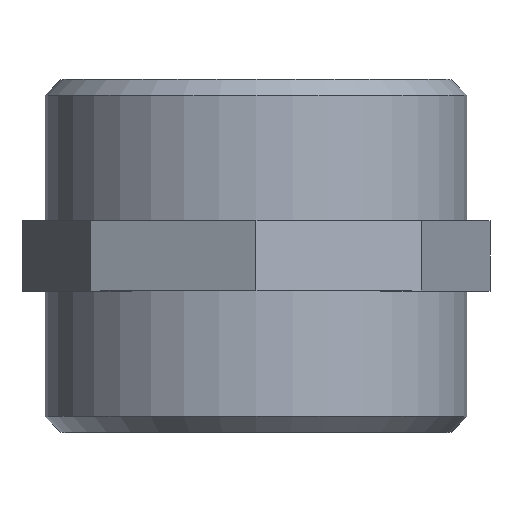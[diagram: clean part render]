
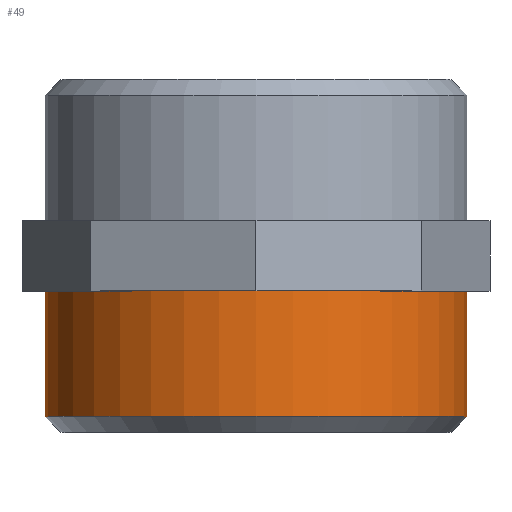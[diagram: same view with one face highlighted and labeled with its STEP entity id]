
A CAD part, top view. The second image highlights one B-rep face of the part: STEP entity #49.
In plain terms, the highlighted cylindrical face has radius 23.901 mm (diameter 47.803 mm), a full revolution.
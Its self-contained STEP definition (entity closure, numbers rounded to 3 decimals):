
#49=ADVANCED_FACE('',(#108,#110),#112,.T.);
#108=FACE_OUTER_BOUND('',#109,.T.);
#109=EDGE_LOOP('',(#228));
#110=FACE_OUTER_BOUND('',#111,.T.);
#111=EDGE_LOOP('',(#229));
#112=CYLINDRICAL_SURFACE('',#113,23.902);
#113=AXIS2_PLACEMENT_3D('',#114,#115,#116);
#114=CARTESIAN_POINT('',(0.,-20.,0.));
#115=DIRECTION('',(0.,1.,0.));
#116=DIRECTION('',(-1.,0.,0.));
#228=ORIENTED_EDGE('',*,*,#294,.T.);
#229=ORIENTED_EDGE('',*,*,#292,.T.);
#292=EDGE_CURVE('',#332,#332,#333,.T.);
#294=EDGE_CURVE('',#336,#336,#337,.F.);
#332=VERTEX_POINT('',#410);
#333=CIRCLE('',#411,23.902);
#336=VERTEX_POINT('',#420);
#337=CIRCLE('',#421,23.902);
#410=CARTESIAN_POINT('',(-23.902,-18.2,0.));
#411=AXIS2_PLACEMENT_3D('',#412,#413,#414);
#412=CARTESIAN_POINT('',(0.,-18.2,0.));
#413=DIRECTION('',(0.,1.,0.));
#414=DIRECTION('',(-1.,0.,0.));
#420=CARTESIAN_POINT('',(-23.902,-4.,0.));
#421=AXIS2_PLACEMENT_3D('',#422,#423,#424);
#422=CARTESIAN_POINT('',(0.,-4.,0.));
#423=DIRECTION('',(0.,1.,0.));
#424=DIRECTION('',(-1.,0.,0.));
